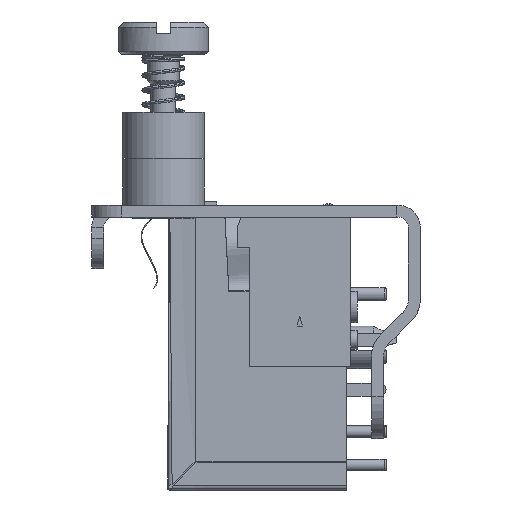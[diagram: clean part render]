
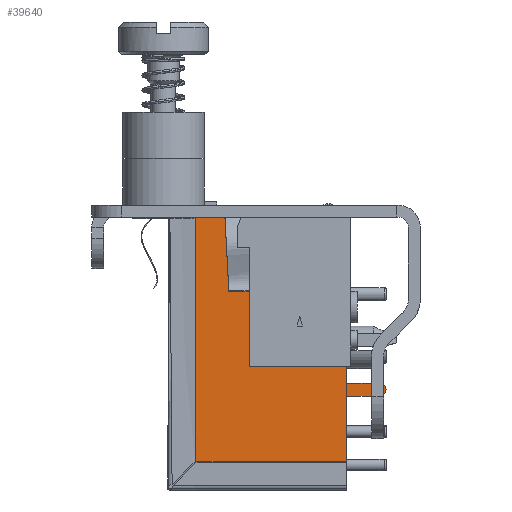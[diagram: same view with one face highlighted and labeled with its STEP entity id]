
A CAD part, left-side view. The second image highlights one B-rep face of the part: STEP entity #39640.
In plain terms, the highlighted planar face has unit normal (-1, 0, 0) as drawn and (1, 0, 0) by its records, which use the part's own axes.
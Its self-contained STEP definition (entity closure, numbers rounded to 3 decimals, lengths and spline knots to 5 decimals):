
#2590=FACE_BOUND('',#7891,.T.);
#2591=FACE_BOUND('',#7892,.T.);
#3447=PLANE('',#42245);
#5542=FACE_OUTER_BOUND('',#7890,.T.);
#7890=EDGE_LOOP('',(#32328,#32329,#32330,#32331,#32332,#32333,#32334,#32335));
#7891=EDGE_LOOP('',(#32336,#32337,#32338,#32339));
#7892=EDGE_LOOP('',(#32340,#32341,#32342,#32343));
#11236=LINE('',#65587,#15449);
#11239=LINE('',#65592,#15452);
#11241=LINE('',#65596,#15454);
#11243=LINE('',#65599,#15456);
#11244=LINE('',#65603,#15457);
#11247=LINE('',#65608,#15460);
#11249=LINE('',#65612,#15462);
#11251=LINE('',#65615,#15464);
#11254=LINE('',#65624,#15467);
#11257=LINE('',#65629,#15470);
#11258=LINE('',#65632,#15471);
#11260=LINE('',#65636,#15473);
#11261=LINE('',#65642,#15474);
#11263=LINE('',#65645,#15476);
#11264=LINE('',#65647,#15477);
#15449=VECTOR('',#47914,0.03937);
#15452=VECTOR('',#47919,0.03937);
#15454=VECTOR('',#47923,0.03937);
#15456=VECTOR('',#47927,0.03937);
#15457=VECTOR('',#47930,0.03937);
#15460=VECTOR('',#47935,0.03937);
#15462=VECTOR('',#47939,0.03937);
#15464=VECTOR('',#47943,0.03937);
#15467=VECTOR('',#47952,0.03937);
#15470=VECTOR('',#47957,0.03937);
#15471=VECTOR('',#47960,0.03937);
#15473=VECTOR('',#47964,0.03937);
#15474=VECTOR('',#47971,0.03937);
#15476=VECTOR('',#47975,0.03937);
#15477=VECTOR('',#47978,0.03937);
#17939=CIRCLE('',#42235,0.01969);
#20077=VERTEX_POINT('',#65585);
#20078=VERTEX_POINT('',#65586);
#20079=VERTEX_POINT('',#65591);
#20080=VERTEX_POINT('',#65595);
#20081=VERTEX_POINT('',#65601);
#20082=VERTEX_POINT('',#65602);
#20083=VERTEX_POINT('',#65607);
#20084=VERTEX_POINT('',#65611);
#20085=VERTEX_POINT('',#65617);
#20086=VERTEX_POINT('',#65618);
#20087=VERTEX_POINT('',#65623);
#20088=VERTEX_POINT('',#65627);
#20089=VERTEX_POINT('',#65631);
#20090=VERTEX_POINT('',#65635);
#20091=VERTEX_POINT('',#65639);
#20092=VERTEX_POINT('',#65641);
#24375=EDGE_CURVE('',#20077,#20078,#11236,.T.);
#24378=EDGE_CURVE('',#20079,#20077,#11239,.T.);
#24380=EDGE_CURVE('',#20080,#20079,#11241,.T.);
#24382=EDGE_CURVE('',#20078,#20080,#11243,.T.);
#24383=EDGE_CURVE('',#20081,#20082,#11244,.T.);
#24386=EDGE_CURVE('',#20083,#20081,#11247,.T.);
#24388=EDGE_CURVE('',#20084,#20083,#11249,.T.);
#24390=EDGE_CURVE('',#20082,#20084,#11251,.T.);
#24391=EDGE_CURVE('',#20085,#20086,#17939,.T.);
#24394=EDGE_CURVE('',#20087,#20085,#11254,.T.);
#24397=EDGE_CURVE('',#20088,#20087,#11257,.T.);
#24398=EDGE_CURVE('',#20089,#20088,#11258,.T.);
#24400=EDGE_CURVE('',#20090,#20089,#11260,.T.);
#24403=EDGE_CURVE('',#20092,#20091,#11261,.T.);
#24405=EDGE_CURVE('',#20086,#20092,#11263,.T.);
#24406=EDGE_CURVE('',#20091,#20090,#11264,.T.);
#32328=ORIENTED_EDGE('',*,*,#24406,.T.);
#32329=ORIENTED_EDGE('',*,*,#24400,.T.);
#32330=ORIENTED_EDGE('',*,*,#24398,.T.);
#32331=ORIENTED_EDGE('',*,*,#24397,.T.);
#32332=ORIENTED_EDGE('',*,*,#24394,.T.);
#32333=ORIENTED_EDGE('',*,*,#24391,.T.);
#32334=ORIENTED_EDGE('',*,*,#24405,.T.);
#32335=ORIENTED_EDGE('',*,*,#24403,.T.);
#32336=ORIENTED_EDGE('',*,*,#24375,.T.);
#32337=ORIENTED_EDGE('',*,*,#24382,.T.);
#32338=ORIENTED_EDGE('',*,*,#24380,.T.);
#32339=ORIENTED_EDGE('',*,*,#24378,.T.);
#32340=ORIENTED_EDGE('',*,*,#24383,.T.);
#32341=ORIENTED_EDGE('',*,*,#24390,.T.);
#32342=ORIENTED_EDGE('',*,*,#24388,.T.);
#32343=ORIENTED_EDGE('',*,*,#24386,.T.);
#39640=ADVANCED_FACE('',(#5542,#2590,#2591),#3447,.T.);
#42235=AXIS2_PLACEMENT_3D('',#65619,#47946,#47947);
#42245=AXIS2_PLACEMENT_3D('',#65648,#47979,#47980);
#47914=DIRECTION('',(0.,-0.052,-0.999));
#47919=DIRECTION('',(0.,1.,0.));
#47923=DIRECTION('',(0.,-0.052,0.999));
#47927=DIRECTION('',(0.,-1.,0.));
#47930=DIRECTION('',(0.,-0.052,0.999));
#47935=DIRECTION('',(0.,-1.,0.));
#47939=DIRECTION('',(0.,-0.052,-0.999));
#47943=DIRECTION('',(0.,1.,0.));
#47946=DIRECTION('center_axis',(1.,0.,0.));
#47947=DIRECTION('ref_axis',(0.,0.,1.));
#47952=DIRECTION('',(0.,1.,0.));
#47957=DIRECTION('',(0.,0.,1.));
#47960=DIRECTION('',(0.,1.,0.));
#47964=DIRECTION('',(0.,0.,-1.));
#47971=DIRECTION('',(0.,0.,1.));
#47975=DIRECTION('',(0.,-1.,0.));
#47978=DIRECTION('',(0.,-1.,0.));
#47979=DIRECTION('center_axis',(1.,0.,0.));
#47980=DIRECTION('ref_axis',(0.,0.,-1.));
#65585=CARTESIAN_POINT('',(0.64449,0.26493,0.99037));
#65586=CARTESIAN_POINT('',(0.64449,0.25213,0.74602));
#65587=CARTESIAN_POINT('',(0.64449,0.25853,0.86819));
#65591=CARTESIAN_POINT('',(0.64449,0.16651,0.99037));
#65592=CARTESIAN_POINT('',(0.64449,0.21572,0.99037));
#65595=CARTESIAN_POINT('',(0.64449,0.17931,0.74602));
#65596=CARTESIAN_POINT('',(0.64449,0.17291,0.86819));
#65599=CARTESIAN_POINT('',(0.64449,0.21572,0.74602));
#65601=CARTESIAN_POINT('',(0.64449,0.35979,0.74602));
#65602=CARTESIAN_POINT('',(0.64449,0.34699,0.99017));
#65603=CARTESIAN_POINT('',(0.64449,0.35339,0.86809));
#65607=CARTESIAN_POINT('',(0.64449,0.43262,0.74602));
#65608=CARTESIAN_POINT('',(0.64449,0.39621,0.74602));
#65611=CARTESIAN_POINT('',(0.64449,0.44542,0.99017));
#65612=CARTESIAN_POINT('',(0.64449,0.43902,0.86809));
#65615=CARTESIAN_POINT('',(0.64449,0.39621,0.99017));
#65617=CARTESIAN_POINT('',(0.64449,0.6311,0.42992));
#65618=CARTESIAN_POINT('',(0.64449,0.6311,0.46929));
#65619=CARTESIAN_POINT('Origin',(0.64449,0.6311,0.44961));
#65623=CARTESIAN_POINT('',(0.64449,0.53268,0.42992));
#65624=CARTESIAN_POINT('',(0.64449,0.58189,0.42992));
#65627=CARTESIAN_POINT('',(0.64449,0.53268,0.23451));
#65629=CARTESIAN_POINT('',(0.64449,0.53268,0.33222));
#65631=CARTESIAN_POINT('',(0.64449,0.08091,0.23451));
#65632=CARTESIAN_POINT('',(0.64449,0.30679,0.23451));
#65635=CARTESIAN_POINT('',(0.64449,0.08091,0.99685));
#65636=CARTESIAN_POINT('',(0.64449,0.08091,0.61863));
#65639=CARTESIAN_POINT('',(0.64449,0.53268,0.99685));
#65641=CARTESIAN_POINT('',(0.64449,0.53268,0.46929));
#65642=CARTESIAN_POINT('',(0.64449,0.53268,0.73602));
#65645=CARTESIAN_POINT('',(0.64449,0.58189,0.46929));
#65647=CARTESIAN_POINT('',(0.64449,0.30679,0.99685));
#65648=CARTESIAN_POINT('Origin',(0.64449,0.08091,0.99685));
